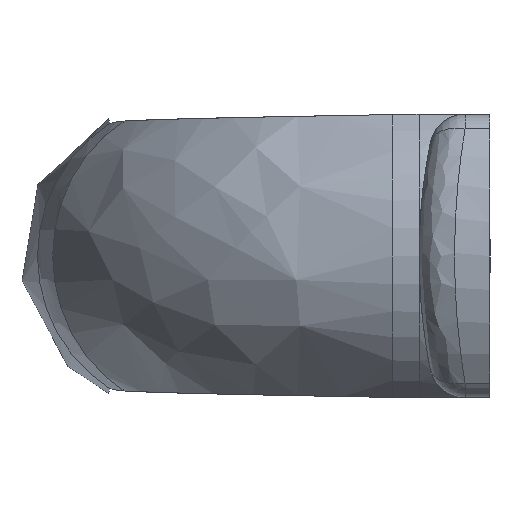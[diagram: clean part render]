
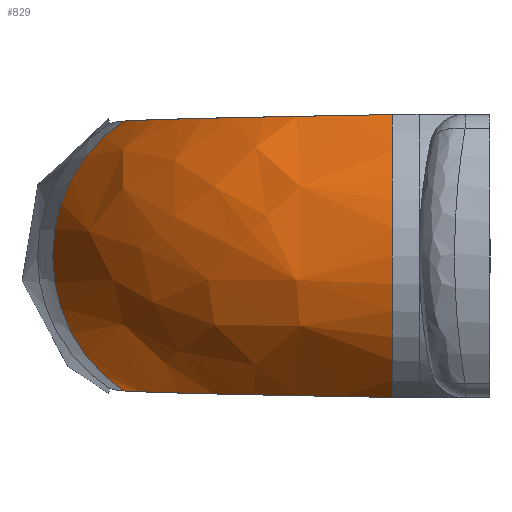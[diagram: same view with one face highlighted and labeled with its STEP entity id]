
A CAD part, left-side view. The second image highlights one B-rep face of the part: STEP entity #829.
In plain terms, the highlighted free-form (B-spline) face has degree [3, 3] with [7, 6] control points.
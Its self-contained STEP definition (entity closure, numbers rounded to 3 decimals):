
#182=CIRCLE('',#874,8.971);
#196=CIRCLE('',#904,9.335);
#245=FACE_OUTER_BOUND('',#309,.T.);
#309=EDGE_LOOP('',(#734,#735,#736,#737));
#347=B_SPLINE_CURVE_WITH_KNOTS('',3,(#1972,#1973,#1974,#1975,#1976,#1977,
#1978,#1979,#1980,#1981,#1982,#1983,#1984,#1985,#1986,#1987,#1988,#1989,
#1990),.UNSPECIFIED.,.F.,.F.,(4,3,3,3,3,3,4),(-2.017,-1.63,
-1.244,-1.152,-0.621,-0.575,
0.),.UNSPECIFIED.);
#348=B_SPLINE_CURVE_WITH_KNOTS('',3,(#1993,#1994,#1995,#1996,#1997,#1998,
#1999,#2000,#2001,#2002,#2003,#2004,#2005,#2006,#2007,#2008,#2009,#2010,
#2011),.UNSPECIFIED.,.F.,.F.,(4,3,3,3,3,3,4),(0.,0.624,0.867,
1.247,1.443,1.632,2.017),
 .UNSPECIFIED.);
#386=VERTEX_POINT('',#1689);
#387=VERTEX_POINT('',#1697);
#413=VERTEX_POINT('',#1971);
#414=VERTEX_POINT('',#1991);
#479=EDGE_CURVE('',#387,#386,#182,.T.);
#521=EDGE_CURVE('',#413,#386,#347,.T.);
#522=EDGE_CURVE('',#414,#413,#196,.T.);
#523=EDGE_CURVE('',#414,#387,#348,.T.);
#734=ORIENTED_EDGE('',*,*,#479,.T.);
#735=ORIENTED_EDGE('',*,*,#521,.F.);
#736=ORIENTED_EDGE('',*,*,#522,.F.);
#737=ORIENTED_EDGE('',*,*,#523,.T.);
#777=B_SPLINE_SURFACE_WITH_KNOTS('',3,3,((#1929,#1930,#1931,#1932,#1933,
#1934),(#1935,#1936,#1937,#1938,#1939,#1940),(#1941,#1942,#1943,#1944,#1945,
#1946),(#1947,#1948,#1949,#1950,#1951,#1952),(#1953,#1954,#1955,#1956,#1957,
#1958),(#1959,#1960,#1961,#1962,#1963,#1964),(#1965,#1966,#1967,#1968,#1969,
#1970)),.UNSPECIFIED.,.F.,.F.,.F.,(4,1,1,1,4),(4,1,1,4),(-2.049,
-1.464,-1.171,-0.586,-0.001),
(1.571,2.112,2.472,2.833),
 .UNSPECIFIED.);
#829=ADVANCED_FACE('',(#245),#777,.T.);
#874=AXIS2_PLACEMENT_3D('',#1698,#1007,#1008);
#904=AXIS2_PLACEMENT_3D('',#1992,#1086,#1087);
#1007=DIRECTION('center_axis',(-0.953,-0.304,0.));
#1008=DIRECTION('ref_axis',(-0.158,0.495,0.855));
#1086=DIRECTION('center_axis',(0.,-1.,0.));
#1087=DIRECTION('ref_axis',(-0.519,0.,0.855));
#1689=CARTESIAN_POINT('',(29.871,20.638,-7.61));
#1697=CARTESIAN_POINT('',(29.871,20.638,7.61));
#1698=CARTESIAN_POINT('Origin',(31.315,16.112,0.));
#1929=CARTESIAN_POINT('Ctrl Pts',(18.707,5.5,-7.974));
#1930=CARTESIAN_POINT('Ctrl Pts',(18.734,8.383,-7.929));
#1931=CARTESIAN_POINT('Ctrl Pts',(20.113,13.156,-7.856));
#1932=CARTESIAN_POINT('Ctrl Pts',(24.653,18.212,-7.752));
#1933=CARTESIAN_POINT('Ctrl Pts',(28.082,19.996,-7.693));
#1934=CARTESIAN_POINT('Ctrl Pts',(29.897,20.556,-7.663));
#1935=CARTESIAN_POINT('Ctrl Pts',(17.152,5.5,-7.027));
#1936=CARTESIAN_POINT('Ctrl Pts',(17.188,8.665,-6.988));
#1937=CARTESIAN_POINT('Ctrl Pts',(18.709,13.894,-6.923));
#1938=CARTESIAN_POINT('Ctrl Pts',(23.696,19.426,-6.832));
#1939=CARTESIAN_POINT('Ctrl Pts',(27.454,21.371,-6.78));
#1940=CARTESIAN_POINT('Ctrl Pts',(29.443,21.98,-6.753));
#1941=CARTESIAN_POINT('Ctrl Pts',(15.255,5.5,-4.906));
#1942=CARTESIAN_POINT('Ctrl Pts',(15.301,9.005,-4.879));
#1943=CARTESIAN_POINT('Ctrl Pts',(17.,14.796,-4.834));
#1944=CARTESIAN_POINT('Ctrl Pts',(22.528,20.904,-4.77));
#1945=CARTESIAN_POINT('Ctrl Pts',(26.69,23.048,-4.734));
#1946=CARTESIAN_POINT('Ctrl Pts',(28.888,23.717,-4.715));
#1947=CARTESIAN_POINT('Ctrl Pts',(13.925,5.5,-0.498));
#1948=CARTESIAN_POINT('Ctrl Pts',(13.978,9.246,-0.495));
#1949=CARTESIAN_POINT('Ctrl Pts',(15.799,15.428,-0.49));
#1950=CARTESIAN_POINT('Ctrl Pts',(21.71,21.942,-0.484));
#1951=CARTESIAN_POINT('Ctrl Pts',(26.153,24.224,-0.48));
#1952=CARTESIAN_POINT('Ctrl Pts',(28.5,24.935,-0.478));
#1953=CARTESIAN_POINT('Ctrl Pts',(14.612,5.5,4.198));
#1954=CARTESIAN_POINT('Ctrl Pts',(14.661,9.122,4.175));
#1955=CARTESIAN_POINT('Ctrl Pts',(16.419,15.102,4.136));
#1956=CARTESIAN_POINT('Ctrl Pts',(22.133,21.406,4.082));
#1957=CARTESIAN_POINT('Ctrl Pts',(26.43,23.617,4.051));
#1958=CARTESIAN_POINT('Ctrl Pts',(28.701,24.306,4.035));
#1959=CARTESIAN_POINT('Ctrl Pts',(17.152,5.5,7.027));
#1960=CARTESIAN_POINT('Ctrl Pts',(17.188,8.664,6.988));
#1961=CARTESIAN_POINT('Ctrl Pts',(18.71,13.895,6.923));
#1962=CARTESIAN_POINT('Ctrl Pts',(23.696,19.425,6.832));
#1963=CARTESIAN_POINT('Ctrl Pts',(27.455,21.371,6.78));
#1964=CARTESIAN_POINT('Ctrl Pts',(29.443,21.98,6.753));
#1965=CARTESIAN_POINT('Ctrl Pts',(18.707,5.5,7.974));
#1966=CARTESIAN_POINT('Ctrl Pts',(18.734,8.383,7.929));
#1967=CARTESIAN_POINT('Ctrl Pts',(20.113,13.156,7.856));
#1968=CARTESIAN_POINT('Ctrl Pts',(24.653,18.212,7.752));
#1969=CARTESIAN_POINT('Ctrl Pts',(28.082,19.996,7.693));
#1970=CARTESIAN_POINT('Ctrl Pts',(29.897,20.556,7.663));
#1971=CARTESIAN_POINT('',(18.707,5.5,-7.974));
#1972=CARTESIAN_POINT('Ctrl Pts',(18.707,5.5,-7.974));
#1973=CARTESIAN_POINT('Ctrl Pts',(18.714,6.788,-7.951));
#1974=CARTESIAN_POINT('Ctrl Pts',(18.879,8.071,-7.927));
#1975=CARTESIAN_POINT('Ctrl Pts',(19.195,9.32,-7.904));
#1976=CARTESIAN_POINT('Ctrl Pts',(19.51,10.568,-7.881));
#1977=CARTESIAN_POINT('Ctrl Pts',(19.972,11.774,-7.858));
#1978=CARTESIAN_POINT('Ctrl Pts',(20.574,12.911,-7.835));
#1979=CARTESIAN_POINT('Ctrl Pts',(20.717,13.182,-7.829));
#1980=CARTESIAN_POINT('Ctrl Pts',(20.869,13.449,-7.824));
#1981=CARTESIAN_POINT('Ctrl Pts',(21.028,13.711,-7.818));
#1982=CARTESIAN_POINT('Ctrl Pts',(21.943,15.219,-7.786));
#1983=CARTESIAN_POINT('Ctrl Pts',(23.105,16.565,-7.754));
#1984=CARTESIAN_POINT('Ctrl Pts',(24.465,17.695,-7.723));
#1985=CARTESIAN_POINT('Ctrl Pts',(24.583,17.793,-7.72));
#1986=CARTESIAN_POINT('Ctrl Pts',(24.703,17.889,-7.717));
#1987=CARTESIAN_POINT('Ctrl Pts',(24.823,17.984,-7.714));
#1988=CARTESIAN_POINT('Ctrl Pts',(26.331,19.164,-7.68));
#1989=CARTESIAN_POINT('Ctrl Pts',(28.041,20.065,-7.645));
#1990=CARTESIAN_POINT('Ctrl Pts',(29.871,20.638,-7.61));
#1991=CARTESIAN_POINT('',(18.707,5.5,7.974));
#1992=CARTESIAN_POINT('Origin',(23.561,5.5,0.));
#1993=CARTESIAN_POINT('Ctrl Pts',(18.707,5.5,7.974));
#1994=CARTESIAN_POINT('Ctrl Pts',(18.718,7.581,7.936));
#1995=CARTESIAN_POINT('Ctrl Pts',(19.14,9.638,7.899));
#1996=CARTESIAN_POINT('Ctrl Pts',(19.937,11.559,7.862));
#1997=CARTESIAN_POINT('Ctrl Pts',(20.247,12.305,7.847));
#1998=CARTESIAN_POINT('Ctrl Pts',(20.611,13.024,7.833));
#1999=CARTESIAN_POINT('Ctrl Pts',(21.028,13.711,7.818));
#2000=CARTESIAN_POINT('Ctrl Pts',(21.683,14.791,7.795));
#2001=CARTESIAN_POINT('Ctrl Pts',(22.468,15.791,7.772));
#2002=CARTESIAN_POINT('Ctrl Pts',(23.364,16.69,7.749));
#2003=CARTESIAN_POINT('Ctrl Pts',(23.824,17.151,7.738));
#2004=CARTESIAN_POINT('Ctrl Pts',(24.311,17.583,7.726));
#2005=CARTESIAN_POINT('Ctrl Pts',(24.823,17.984,7.714));
#2006=CARTESIAN_POINT('Ctrl Pts',(25.32,18.373,7.703));
#2007=CARTESIAN_POINT('Ctrl Pts',(25.84,18.732,7.691));
#2008=CARTESIAN_POINT('Ctrl Pts',(26.38,19.059,7.68));
#2009=CARTESIAN_POINT('Ctrl Pts',(27.476,19.724,7.657));
#2010=CARTESIAN_POINT('Ctrl Pts',(28.648,20.255,7.634));
#2011=CARTESIAN_POINT('Ctrl Pts',(29.871,20.638,7.61));
